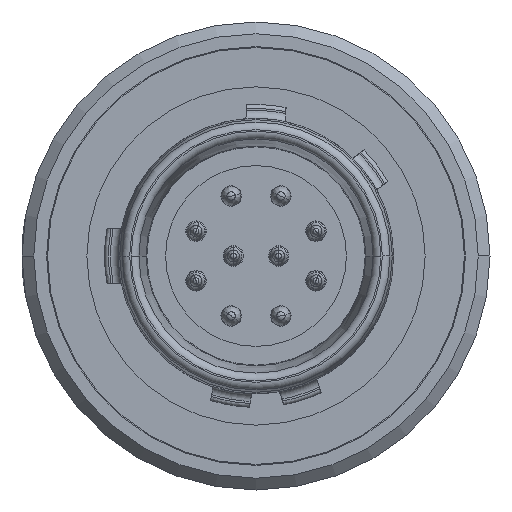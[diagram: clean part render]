
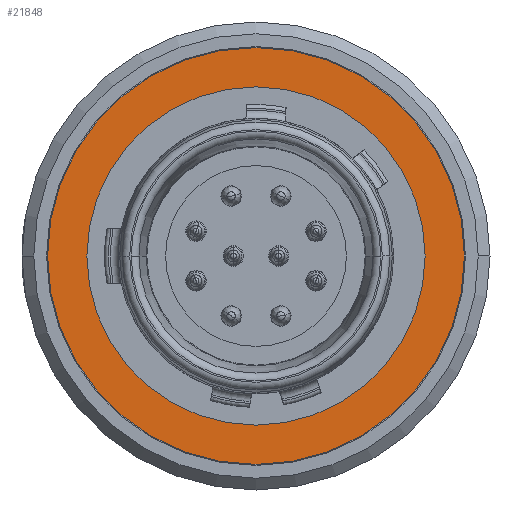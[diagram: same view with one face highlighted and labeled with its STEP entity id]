
A CAD part, left-side view. The second image highlights one B-rep face of the part: STEP entity #21848.
In plain terms, the highlighted planar face has unit normal (-1, 0, 0).
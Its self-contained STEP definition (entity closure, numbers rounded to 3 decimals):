
#4061=CARTESIAN_POINT('',(-7.51,0.,0.));
#4062=DIRECTION('',(1.,0.,0.));
#4063=DIRECTION('',(0.,1.,0.));
#4064=AXIS2_PLACEMENT_3D('',#4061,#4062,#4063);
#4066=CARTESIAN_POINT('',(-7.51,0.,0.));
#4067=DIRECTION('',(1.,0.,0.));
#4068=DIRECTION('',(0.,-1.,0.));
#4069=AXIS2_PLACEMENT_3D('',#4066,#4067,#4068);
#4071=CARTESIAN_POINT('',(-7.51,0.,0.));
#4072=DIRECTION('',(-1.,0.,0.));
#4073=DIRECTION('',(0.,1.,0.));
#4074=AXIS2_PLACEMENT_3D('',#4071,#4072,#4073);
#4076=CARTESIAN_POINT('',(-7.51,0.,0.));
#4077=DIRECTION('',(-1.,0.,0.));
#4078=DIRECTION('',(0.,-1.,0.));
#4079=AXIS2_PLACEMENT_3D('',#4076,#4077,#4078);
#13339=CARTESIAN_POINT('',(-7.51,-5.3,0.));
#13340=VERTEX_POINT('',#13339);
#13341=CARTESIAN_POINT('',(-7.51,5.3,0.));
#13342=VERTEX_POINT('',#13341);
#13343=CARTESIAN_POINT('',(-7.51,4.3,0.));
#13344=CARTESIAN_POINT('',(-7.51,-4.3,0.));
#13345=VERTEX_POINT('',#13343);
#13346=VERTEX_POINT('',#13344);
#21833=CARTESIAN_POINT('',(-7.51,0.,0.));
#21834=DIRECTION('',(1.,0.,0.));
#21835=DIRECTION('',(0.,-1.,0.));
#21836=AXIS2_PLACEMENT_3D('',#21833,#21834,#21835);
#21837=PLANE('',#21836);
#21838=ORIENTED_EDGE('',*,*,#21798,.T.);
#21839=ORIENTED_EDGE('',*,*,#21820,.T.);
#21840=EDGE_LOOP('',(#21838,#21839));
#21841=FACE_OUTER_BOUND('',#21840,.F.);
#21843=ORIENTED_EDGE('',*,*,#21842,.T.);
#21845=ORIENTED_EDGE('',*,*,#21844,.T.);
#21846=EDGE_LOOP('',(#21843,#21845));
#21847=FACE_BOUND('',#21846,.F.);
#4065=CIRCLE('',#4064,5.3);
#4070=CIRCLE('',#4069,5.3);
#4075=CIRCLE('',#4074,4.3);
#4080=CIRCLE('',#4079,4.3);
#21798=EDGE_CURVE('',#13342,#13340,#4065,.T.);
#21820=EDGE_CURVE('',#13340,#13342,#4070,.T.);
#21842=EDGE_CURVE('',#13345,#13346,#4075,.T.);
#21844=EDGE_CURVE('',#13346,#13345,#4080,.T.);
#21848=ADVANCED_FACE('',(#21841,#21847),#21837,.F.);
